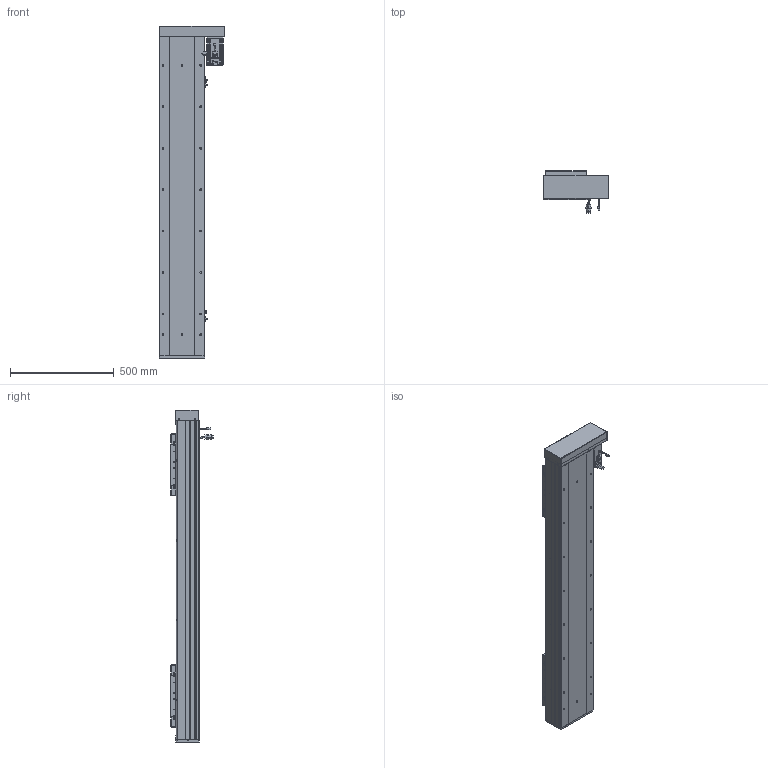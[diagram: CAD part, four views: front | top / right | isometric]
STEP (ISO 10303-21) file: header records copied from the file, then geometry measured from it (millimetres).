
FILE_DESCRIPTION (( 'STEP AP203' ), '1' );
FILE_NAME ('RY220F-L2525-800-RK-邧嶺.SLDASM_1100.step', '2022-08-06T08:19:10', ( '' ), ( '' ), 'SwSTEP 2.0', 'SolidWorks 2016', '' );
FILE_SCHEMA (( 'CONFIG_CONTROL_DESIGN' ));
Length unit declared in the file: millimetre
Products named in the file (15): RY220F-滅鳥奻裔; RY220F綴裔啣; 侐源滅袉蝶; RY220F-L2525-800-RK-邧嶺.SLDASM_1100; 滅袉蝶18-24; RY220F-蛌殏奻裔啣-800_1100; 覜茼ん672; RY220F臏賑釱25-32佪裝; RY220F-672覜茼んえ; RY220左右折电机安装板; RY220F-詩湍揤踡輸; 怢湛750W_ECMA-CX0807ES; RY220酘衵殏萇儂欶; RY220F-祥凄詩湍-蛌殏-800_1100; RY220F蛌殏菁釱-800-邧嶺_1100
Assembly tree (24 placements, depth 2):
  RY220F-L2525-800-RK-邧嶺.SLDASM_1100
    RY220F蛌殏菁釱-800-邧嶺_1100
    RY220F-蛌殏奻裔啣-800_1100  x2
    怢湛750W_ECMA-CX0807ES
    RY220F臏賑釱25-32佪裝  x2
    RY220F-滅鳥奻裔  x2
    滅袉蝶18-24  x3
    RY220F綴裔啣
    RY220F-祥凄詩湍-蛌殏-800_1100
    RY220F-詩湍揤踡輸  x2
    覜茼ん672  x3
    RY220F-672覜茼んえ  x2
    RY220左右折电机安装板
    RY220酘衵殏萇儂欶
    侐源滅袉蝶  x2
Bounding box: 317.5 x 205.27 x 1603 mm (x, y, z)
Volume: 15286195.3 mm3; surface area: 4010202.3 mm2
Topology: 25 solids, 25 shells, 2772 faces, 7540 edges, 4666 vertices
Faces by surface type: cylinder 1250, plane 1044, cone 407, bspline 45, sphere 16, torus 10
Entity records: 68792 total; most frequent: CARTESIAN_POINT 18663, ORIENTED_EDGE 10126, DIRECTION 9852, EDGE_CURVE 5063, AXIS2_PLACEMENT_3D 3506, VERTEX_POINT 3282, LINE 2840, VECTOR 2840
